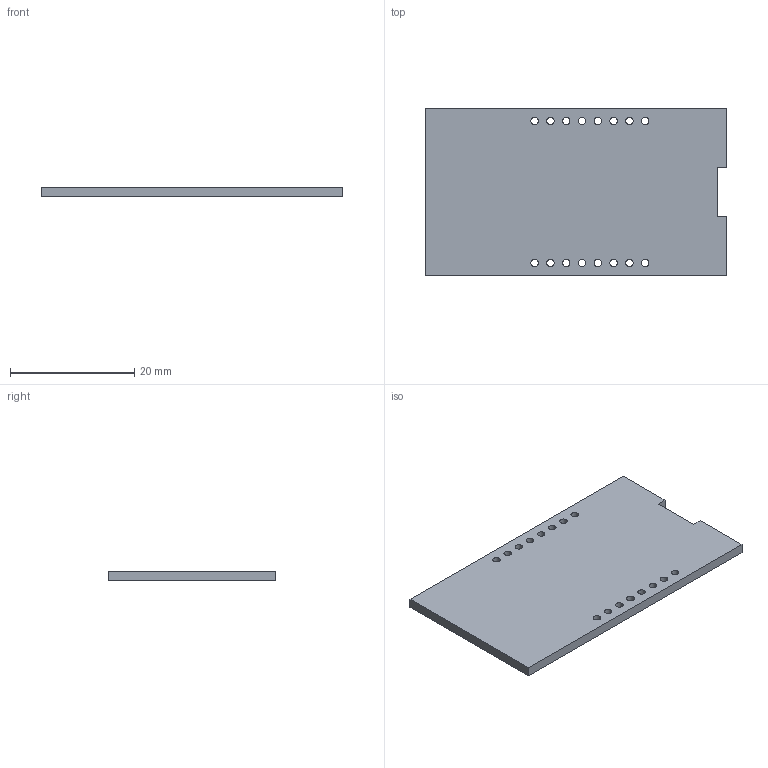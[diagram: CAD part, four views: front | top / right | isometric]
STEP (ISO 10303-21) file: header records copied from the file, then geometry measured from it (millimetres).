
FILE_DESCRIPTION(('Open CASCADE Model'),'2;1');
FILE_NAME('Open CASCADE Shape Model','2026-11-11T17:54:49',('Author'),( 'Open CASCADE'),'Open CASCADE STEP processor 7.9','Open CASCADE 7.9' ,'Unknown');
FILE_SCHEMA(('AUTOMOTIVE_DESIGN { 1 0 10303 214 1 1 1 1 }'));
Length unit declared in the file: millimetre
Products named in the file (1): Open CASCADE STEP translator 7.9 3
Bounding box: 48.5 x 27 x 1.6 mm (x, y, z)
Volume: 2047 mm3; surface area: 2901.7 mm2
Topology: 1 solids, 1 shells, 26 faces, 72 edges, 48 vertices
Faces by surface type: cylinder 16, plane 10
Full cylindrical faces by diameter (mm): 1.2 x16
Entity records: 1942 total; most frequent: CARTESIAN_POINT 495, DIRECTION 258, ORIENTED_EDGE 144, PCURVE 144, DEFINITIONAL_REPRESENTATION 144, LINE 140, VECTOR 140, EDGE_CURVE 72
